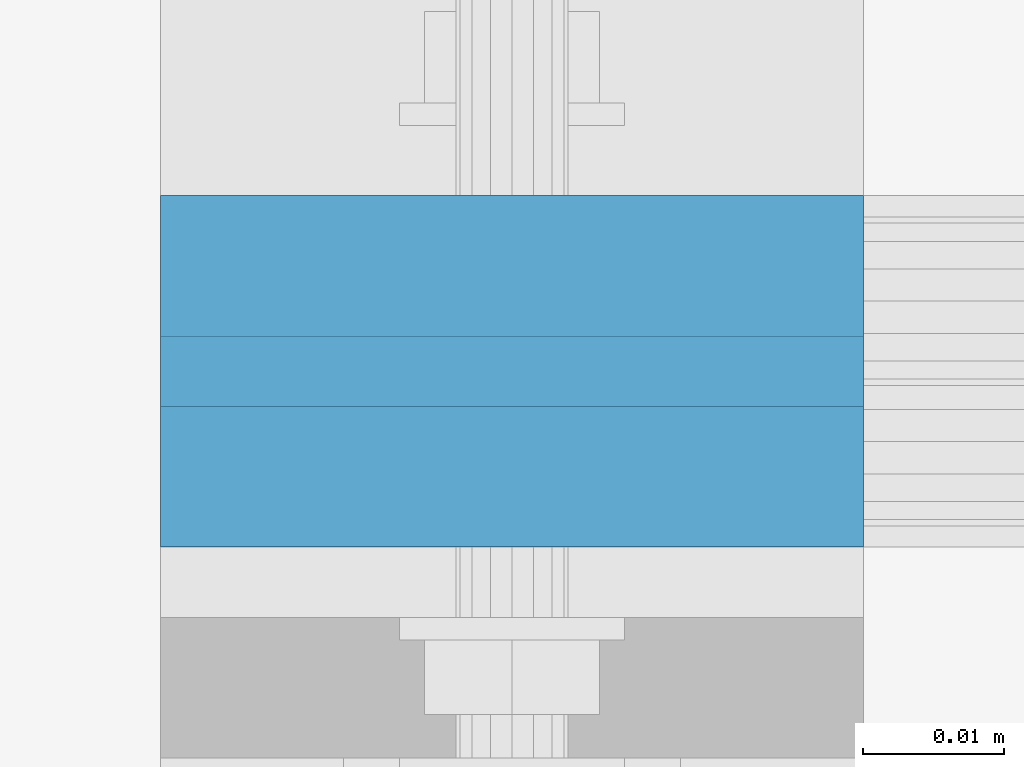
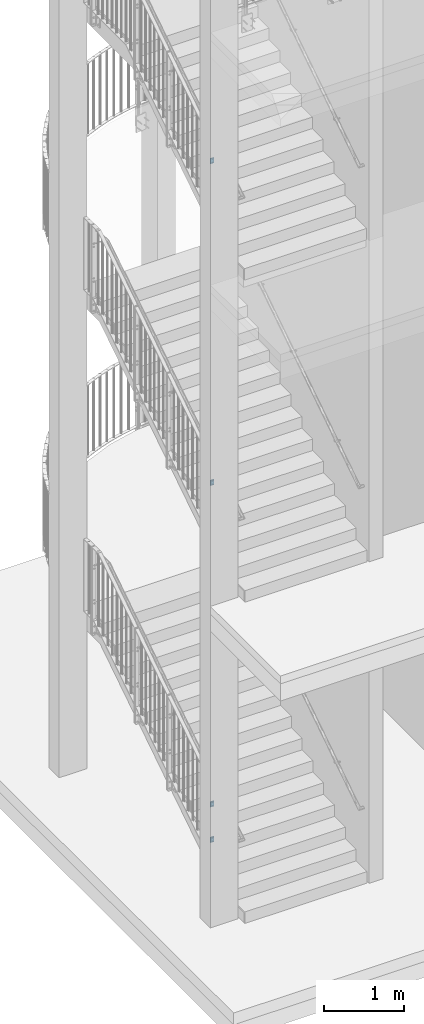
# One storey, part 120 of 296: 4 plates, 8 openings.
"""IFC2X3 building model written with IfcOpenShell, lengths in millimetres."""

from ifc_helpers import new_model, entity, si_unit, converted_unit, frame, frame_2d, origin, origin_with_axes, place, context, project, spatial, polyline, circle, outline, extrude, material, layer, layer_set, element, save


model = new_model("IFC2X3")

# Units and contexts
model_context = context("Model", 3, precision=1e-09, world=origin_with_axes())
ifc_project = project(units=[si_unit("LENGTHUNIT", "METRE", prefix="MILLI"), si_unit("AREAUNIT", "SQUARE_METRE"), si_unit("VOLUMEUNIT", "CUBIC_METRE"), converted_unit("PLANEANGLEUNIT", "DEGREE", entity("IfcPlaneAngleMeasure", 0.01745329), si_unit("PLANEANGLEUNIT", "RADIAN"), dimensions=[0, 0, 0, 0, 0, 0, 0])], contexts=[model_context])

# Site, building, storey
site_placement = place(None, origin_with_axes())
site = spatial("IfcSite", under=ifc_project, at=site_placement, Name="TZD-S?d | Treppenhausgel?nder", CompositionType="ELEMENT")
building_placement = place(site_placement, origin_with_axes())
building = spatial("IfcBuilding", under=site, at=building_placement, Name="Struktur 1", CompositionType="ELEMENT")
storey_placement = place(building_placement, origin_with_axes())
storey = spatial("IfcBuildingStorey", under=building, at=storey_placement, Name="Default Storey", CompositionType="ELEMENT", Elevation=0.0)

# Plate, openings
ifc_material = material(Name="S235JR")
ifc_layer = layer(ifc_material, 15.0)
ifc_layer_set = layer_set([ifc_layer], Name="S235JR")
plate_1_placement = place(None, frame((-45.0, -3452.5, 880.001), z_axis=(0.0, -1.0, 0.0), x_axis=(1.0, 0.0, 0.0)))
plate_1 = element("IfcPlate", 1, at=plate_1_placement, inside=storey, material=ifc_layer_set, Name="Girder", ObjectType="Girder", context=model_context, shape_type="SweptSolid", body=[
    extrude(outline(polyline([(-25.0, -40.0), (25.0, -40.0), (25.0, 40.0), (-25.0, 40.0), (-25.0, -40.0)])), origin_with_axes(), (0.0, 0.0, 1.0), 15.0),
])
opening_1_placement = place(plate_1_placement, frame((0.0, -1e-09, -0.5), z_axis=(0.0, 0.0, 1.0), x_axis=(1.0, 0.0, 0.0)))
element("IfcOpeningElement", 2, at=opening_1_placement, cuts=plate_1, ObjectType="Opening", context=model_context, shape_type="SweptSolid", body=[
    extrude(circle(Radius=5.001, at=frame_2d((0.0, 25.0), x_axis=(1.0, 0.0))), origin(), (0.0, 0.0, 1.0), 16.0),
])
opening_2_placement = place(plate_1_placement, frame((0.0, -1e-09, -0.5), z_axis=(0.0, 0.0, 1.0), x_axis=(1.0, 0.0, 0.0)))
element("IfcOpeningElement", 3, at=opening_2_placement, cuts=plate_1, ObjectType="Opening", context=model_context, shape_type="SweptSolid", body=[
    extrude(circle(Radius=5.001, at=frame_2d((0.0, -25.0), x_axis=(1.0, 0.0))), origin(), (0.0, 0.0, 1.0), 16.0),
])

plate_2_placement = place(None, frame((-45.0, -3452.5, 1420.783661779), z_axis=(0.0, -1.0, 0.0), x_axis=(1.0, 0.0, 0.0)))
plate_2 = element("IfcPlate", 4, at=plate_2_placement, inside=storey, material=ifc_layer_set, Name="Girder", ObjectType="Girder", context=model_context, shape_type="SweptSolid", body=[
    extrude(outline(polyline([(-25.0, -40.0), (25.0, -40.0), (25.0, 40.0), (-25.0, 40.0), (-25.0, -40.0)])), origin_with_axes(), (0.0, 0.0, 1.0), 15.0),
])
opening_3_placement = place(plate_2_placement, frame((0.0, -1e-09, -0.5), z_axis=(0.0, 0.0, 1.0), x_axis=(1.0, 0.0, 0.0)))
element("IfcOpeningElement", 5, at=opening_3_placement, cuts=plate_2, ObjectType="Opening", context=model_context, shape_type="SweptSolid", body=[
    extrude(circle(Radius=5.001, at=frame_2d((0.0, 25.0), x_axis=(1.0, 0.0))), origin(), (0.0, 0.0, 1.0), 16.0),
])
opening_4_placement = place(plate_2_placement, frame((0.0, -1e-09, -0.5), z_axis=(0.0, 0.0, 1.0), x_axis=(1.0, 0.0, 0.0)))
element("IfcOpeningElement", 6, at=opening_4_placement, cuts=plate_2, ObjectType="Opening", context=model_context, shape_type="SweptSolid", body=[
    extrude(circle(Radius=5.001, at=frame_2d((0.0, -25.0), x_axis=(1.0, 0.0))), origin(), (0.0, 0.0, 1.0), 16.0),
])

plate_3_placement = place(None, frame((-45.0, -3452.5, 6320.999562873), z_axis=(0.0, -1.0, 0.0), x_axis=(1.0, 0.0, 0.0)))
plate_3 = element("IfcPlate", 7, at=plate_3_placement, inside=storey, material=ifc_layer_set, Name="Girder", ObjectType="Girder", context=model_context, shape_type="SweptSolid", body=[
    extrude(outline(polyline([(-25.0, -40.0), (25.0, -40.0), (25.0, 40.0), (-25.0, 40.0), (-25.0, -40.0)])), origin_with_axes(), (0.0, 0.0, 1.0), 15.0),
])
opening_5_placement = place(plate_3_placement, frame((0.0, -1e-09, -0.5), z_axis=(0.0, 0.0, 1.0), x_axis=(1.0, 0.0, 0.0)))
element("IfcOpeningElement", 8, at=opening_5_placement, cuts=plate_3, ObjectType="Opening", context=model_context, shape_type="SweptSolid", body=[
    extrude(circle(Radius=5.001, at=frame_2d((0.0, 25.0), x_axis=(1.0, 0.0))), origin(), (0.0, 0.0, 1.0), 16.0),
])
opening_6_placement = place(plate_3_placement, frame((0.0, -1e-09, -0.5), z_axis=(0.0, 0.0, 1.0), x_axis=(1.0, 0.0, 0.0)))
element("IfcOpeningElement", 9, at=opening_6_placement, cuts=plate_3, ObjectType="Opening", context=model_context, shape_type="SweptSolid", body=[
    extrude(circle(Radius=5.001, at=frame_2d((0.0, -25.0), x_axis=(1.0, 0.0))), origin(), (0.0, 0.0, 1.0), 16.0),
])

plate_4_placement = place(None, frame((-45.0, -3442.5, 11219.40496578), z_axis=(0.0, -1.0, 0.0), x_axis=(1.0, 0.0, 0.0)))
plate_4 = element("IfcPlate", 10, at=plate_4_placement, inside=storey, material=ifc_layer_set, Name="Girder", ObjectType="Girder", context=model_context, shape_type="SweptSolid", body=[
    extrude(outline(polyline([(-25.0, -40.0), (25.0, -40.0), (25.0, 40.0), (-25.0, 40.0), (-25.0, -40.0)])), origin_with_axes(), (0.0, 0.0, 1.0), 15.0),
])
opening_7_placement = place(plate_4_placement, frame((0.0, -1e-09, -0.5), z_axis=(0.0, 0.0, 1.0), x_axis=(1.0, 0.0, 0.0)))
element("IfcOpeningElement", 11, at=opening_7_placement, cuts=plate_4, ObjectType="Opening", context=model_context, shape_type="SweptSolid", body=[
    extrude(circle(Radius=5.001, at=frame_2d((0.0, 25.0), x_axis=(1.0, 0.0))), origin(), (0.0, 0.0, 1.0), 16.0),
])
opening_8_placement = place(plate_4_placement, frame((0.0, -1e-09, -0.5), z_axis=(0.0, 0.0, 1.0), x_axis=(1.0, 0.0, 0.0)))
element("IfcOpeningElement", 12, at=opening_8_placement, cuts=plate_4, ObjectType="Opening", context=model_context, shape_type="SweptSolid", body=[
    extrude(circle(Radius=5.001, at=frame_2d((0.0, -25.0), x_axis=(1.0, 0.0))), origin(), (0.0, 0.0, 1.0), 16.0),
])

save(model, "model.ifc")
